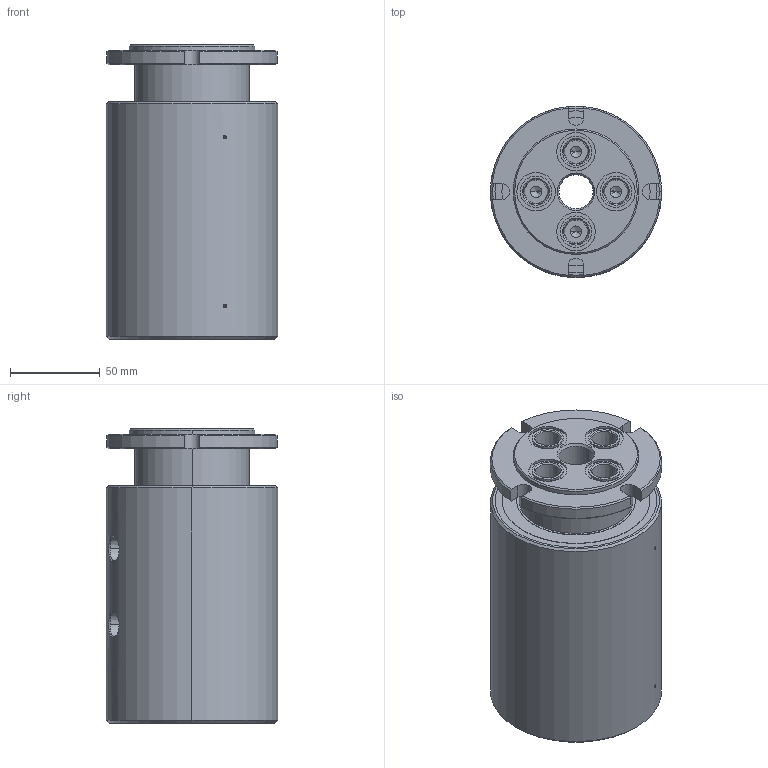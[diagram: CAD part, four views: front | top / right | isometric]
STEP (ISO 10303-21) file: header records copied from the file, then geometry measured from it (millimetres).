
FILE_DESCRIPTION (( 'STEP AP214' ), '1' );
FILE_NAME ('GP(M)-241.STEP', '2013-02-05T22:26:06', ( '' ), ( '' ), 'SwSTEP 2.0', 'SolidWorks 2011', '' );
FILE_SCHEMA (( 'AUTOMOTIVE_DESIGN' ));
Length unit declared in the file: inch
Products named in the file (1): GP(M)-241
Bounding box: 95.25 x 95.25 x 163.88 mm (x, y, z)
Volume: 970587.3 mm3; surface area: 90456.5 mm2
Topology: 1 solids, 1 shells, 230 faces, 544 edges, 327 vertices
Faces by surface type: cylinder 95, cone 78, plane 47, bspline 8, torus 2
Entity records: 7746 total; most frequent: CARTESIAN_POINT 1948, DIRECTION 1150, ORIENTED_EDGE 1020, EDGE_CURVE 510, AXIS2_PLACEMENT_3D 473, VERTEX_POINT 327, EDGE_LOOP 277, CIRCLE 250
